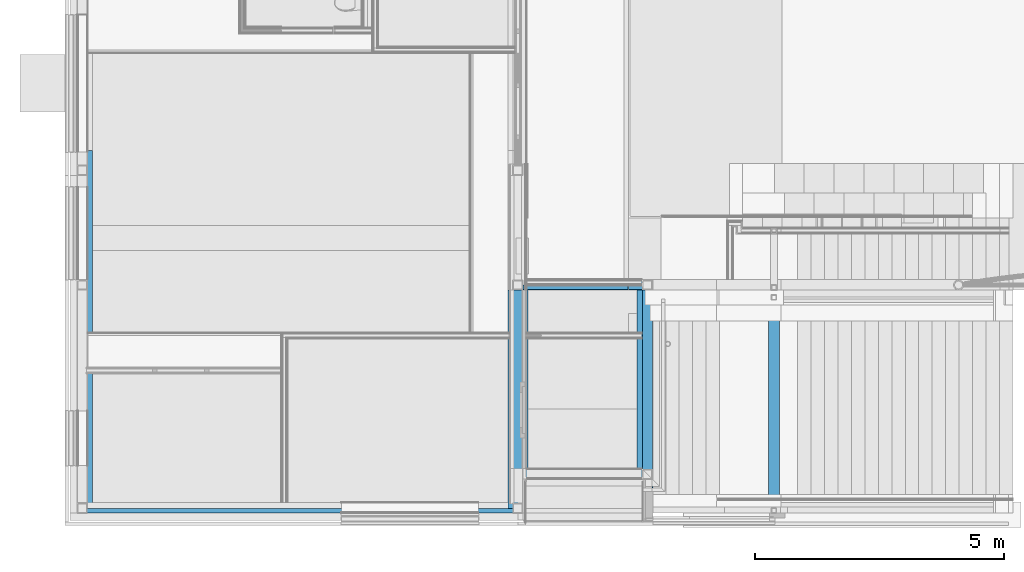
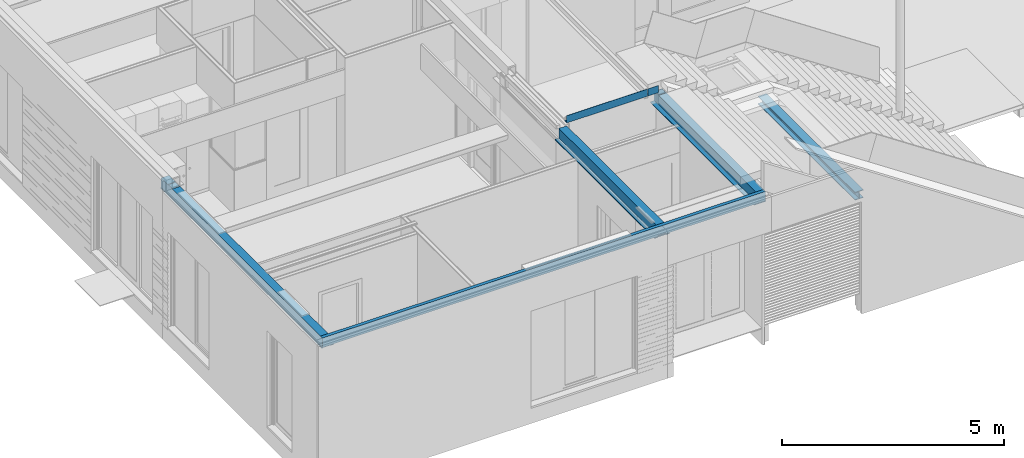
# One storey, part 8 of 165: 6 beams.
"""IFC2X3 building model written with IfcOpenShell, lengths in millimetres."""

from ifc_helpers import new_model, entity, si_unit, converted_unit, derived_unit, money_unit, direction, frame, origin_with_axes, place, context, subcontext, project, spatial, faceted_brep, material, type_object, element, save


model = new_model("IFC2X3")

# Units and contexts
model_context = context("Model", 3, precision=0.01, world=origin_with_axes(), true_north=direction((0.0, 1.0)))
body_context = subcontext(model_context, "Body", "Model", "MODEL_VIEW")
ifc_project = project(units=[si_unit("LENGTHUNIT", "METRE", prefix="MILLI"), si_unit("AREAUNIT", "SQUARE_METRE"), si_unit("VOLUMEUNIT", "CUBIC_METRE"), converted_unit("PLANEANGLEUNIT", "DEGREE", entity("IfcPlaneAngleMeasure", 0.0174532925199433), si_unit("PLANEANGLEUNIT", "RADIAN"), dimensions=[0, 0, 0, 0, 0, 0, 0]), money_unit("EUR"), converted_unit("TIMEUNIT", "Year", entity("IfcTimeMeasure", 31556926.0), si_unit("TIMEUNIT", "SECOND"), dimensions=[0, 0, 1, 0, 0, 0, 0]), si_unit("MASSUNIT", "GRAM", prefix="KILO"), si_unit("THERMODYNAMICTEMPERATUREUNIT", "DEGREE_CELSIUS"), si_unit("LUMINOUSINTENSITYUNIT", "LUMEN"), si_unit("ENERGYUNIT", "JOULE", prefix="MEGA"), derived_unit("THERMALCONDUCTANCEUNIT", [(si_unit("POWERUNIT", "WATT"), 1), (si_unit("LENGTHUNIT", "METRE"), -1), (si_unit("THERMODYNAMICTEMPERATUREUNIT", "KELVIN"), -1)]), derived_unit("SPECIFICHEATCAPACITYUNIT", [(si_unit("ENERGYUNIT", "JOULE"), 1), (si_unit("MASSUNIT", "GRAM", prefix="KILO"), -1), (si_unit("THERMODYNAMICTEMPERATUREUNIT", "KELVIN"), -1)]), derived_unit("MASSDENSITYUNIT", [(si_unit("MASSUNIT", "GRAM", prefix="KILO"), 1), (si_unit("VOLUMEUNIT", "CUBIC_METRE"), -1)])], contexts=[model_context])

# Site, building, storey
site_placement = place(None, origin_with_axes())
site = spatial("IfcSite", under=ifc_project, at=site_placement, Name="Site", CompositionType="ELEMENT")
building_placement = place(site_placement, origin_with_axes())
building = spatial("IfcBuilding", under=site, at=building_placement, Name="Naam gebouw", CompositionType="ELEMENT")
storey_placement = place(building_placement, origin_with_axes())
storey = spatial("IfcBuildingStorey", under=building, at=storey_placement, Name="Begane grond", CompositionType="ELEMENT", Elevation=0.0)

# Beams
ifc_material = material(Name="Metaal - Staal C")
beam_type_1 = type_object("IfcBeamType", Name="UNP260 90 x 260", PredefinedType="BEAM")
beam_1_placement = place(storey_placement, frame((0.0, -1.353469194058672e-10, 3440.0), z_axis=(0.0, 0.0, 1.0), x_axis=(0.0, -1.0, 0.0)))
element("IfcBeam", 1, at=beam_1_placement, inside=storey, type_object=beam_type_1, material=ifc_material, Name="h METAAL_Regenwaterafvoer-x", ObjectType="BEAM", context=body_context, shape_type="Brep", body=[
    faceted_brep([(-90.00000000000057, 8760.000000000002, -116.0000000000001), (-10.00000000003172, 8760.0, -116.0000000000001), (-10.0000000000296, 8940.0, -116.0000000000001), (-90.00000000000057, 8940.000000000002, -116.0000000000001), (-10.00000000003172, 8760.0, -129.9999999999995), (-90.00000000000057, 8760.000000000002, -129.9999999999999), (-10.0000000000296, 8940.0, -129.9999999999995), (-90.00000000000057, 8940.000000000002, -129.9999999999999)], [[[0, 1, 2, 3]], [[4, 1, 0, 5]], [[6, 2, 1, 4]], [[6, 7, 3, 2]], [[7, 5, 0, 3]], [[6, 4, 5, 7]]]),
    faceted_brep([(-90.00000000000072, 11549.99980462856, -129.9999999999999), (-90.00000000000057, 8950.000000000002, -129.9999999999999), (-90.00000000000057, 8950.000000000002, -116.0000000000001), (-90.00000000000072, 11549.99980462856, -116.0000000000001), (0.0, 11549.99980462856, -129.9999999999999), (0.0, 8950.0, -130.0000000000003), (-10.00000000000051, 8950.0, -99.9999977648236), (-10.00000000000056, 8950.0, -116.0000000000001), (0.0, 8950.0, -99.9999977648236), (-10.00000000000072, 11549.99980462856, -116.0000000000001), (-90.0000000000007, 11549.99980462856, 116.0000000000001), (-90.0000000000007, 11549.99980462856, 129.9999999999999), (0.0, 11549.99980462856, 129.9999999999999), (-10.00000000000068, 11549.99980462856, 116.0000000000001), (0.0, 8750.0, -99.9999977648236), (0.0, 0.0, 129.9999999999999), (0.0, 0.0, -129.9999999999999), (0.0, 8750.0, -129.9999999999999), (-10.00000000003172, 8760.0, -99.9999977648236), (-10.00000000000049, 8750.0, -99.9999977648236), (-10.00000000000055, 8750.0, -116.0000000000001), (-10.00000000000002, 0.0, -116.0000000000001), (-9.999999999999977, 0.0, 116.0000000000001), (-10.0000000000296, 8940.0, -99.9999977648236), (-89.99999999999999, 0.0, 116.0000000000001), (-89.99999999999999, 0.0, 129.9999999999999), (-90.00000000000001, 0.0, -129.9999999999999), (-90.00000000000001, 0.0, -116.0000000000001), (-90.00000000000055, 8750.000000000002, -129.9999999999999), (-90.00000000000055, 8750.000000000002, -116.0000000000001)], [[[0, 1, 2, 3]], [[4, 5, 1, 0]], [[6, 7, 2, 1, 5, 8]], [[3, 2, 7, 9]], [[10, 11, 12, 4, 0, 3, 9, 13]], [[14, 8, 5, 4, 12, 15, 16, 17]], [[18, 19, 20, 21, 22, 13, 9, 7, 6, 23]], [[18, 23, 6, 8, 14, 19]], [[24, 25, 11, 10]], [[25, 15, 12, 11]], [[22, 24, 10, 13]], [[26, 16, 15, 25, 24, 22, 21, 27]], [[26, 28, 17, 16]], [[17, 28, 29, 20, 19, 14]], [[21, 20, 29, 27]], [[27, 29, 28, 26]]]),
])
beam_type_2 = type_object("IfcBeamType", Name="28 THQ 03 400 x 290", PredefinedType="BEAM")
beam_2_placement = place(storey_placement, frame((8850.000000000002, 4479.999999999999, 3570.0), z_axis=(0.0, 0.0, 1.0), x_axis=(-1.0, 0.0, 0.0)))
element("IfcBeam", 2, at=beam_2_placement, inside=storey, type_object=beam_type_2, material=ifc_material, Name="h METAAL_Regenwaterafvoer-x", ObjectType="BEAM", context=body_context, shape_type="Brep", body=[
    faceted_brep([(-89.99999999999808, 4469.999999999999, -289.9999977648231), (90.00000000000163, 4469.999999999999, -289.9999977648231), (90.00000000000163, 4289.999999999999, -289.9999977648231), (-89.99999999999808, 4289.999999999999, -289.9999977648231), (-89.99999999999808, 4469.999999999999, -264.9999977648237), (90.00000000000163, 4469.999999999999, -264.9999977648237), (90.00000000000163, 4289.999999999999, -264.9999977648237), (-89.99999999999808, 4289.999999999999, -264.9999977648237)], [[[0, 1, 2, 3]], [[0, 4, 5, 1]], [[1, 5, 6, 2]], [[2, 6, 7, 3]], [[3, 7, 4, 0]], [[6, 5, 4, 7]]]),
    faceted_brep([(-99.99999999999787, 4279.999999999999, -289.9999977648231), (100.0000000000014, 4279.999999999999, -289.9999977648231), (100.0000000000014, 4479.999999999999, -289.9999977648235), (199.9999999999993, 4480.000000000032, -289.9999977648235), (199.9999999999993, 0.0, -289.9999977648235), (-199.9999999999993, 0.0, -289.9999977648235), (-200.0000000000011, 4480.000000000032, -289.9999977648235), (-99.99999999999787, 4479.999999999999, -289.999997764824), (100.0000000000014, 4279.999999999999, -229.9999977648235), (-99.99999999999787, 4279.999999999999, -229.9999977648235), (-95.00000000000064, 4279.999999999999, -229.9999977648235), (-95.00000000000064, 4279.999999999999, -264.9999977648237), (94.99999999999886, 4279.999999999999, -264.9999977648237), (95.00000000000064, 4279.999999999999, -229.9999977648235), (100.0000000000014, 4479.999999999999, -259.9999999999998), (100.0000000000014, 4470.000000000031, -229.9999977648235), (100.0000000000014, 4470.000000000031, -246.0), (100.0000000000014, 4390.000000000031, -246.0), (100.0000000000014, 4390.000000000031, -259.9999999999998), (102.9999999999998, 4480.000000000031, -259.9999999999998), (102.9999999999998, 4480.000000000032, -264.9999977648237), (199.9999999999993, 4480.000000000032, -264.9999977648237), (199.9999999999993, 0.0, -264.9999977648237), (102.9999999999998, 0.0, -264.9999977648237), (102.9999999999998, 0.0, 0.0), (-102.9999999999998, 0.0, 0.0), (-102.9999999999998, 0.0, -264.9999977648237), (-199.9999999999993, 0.0, -264.9999977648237), (-95.00000000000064, 0.0, -40.00000000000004), (95.00000000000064, 0.0, -40.00000000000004), (95.00000000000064, 0.0, -264.9999977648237), (-95.00000000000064, 0.0, -264.9999977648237), (-200.0000000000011, 4480.000000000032, -264.9999977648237), (-102.9999999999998, 4480.000000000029, -259.9999999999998), (-99.99999999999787, 4479.999999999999, -260.0000000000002), (-102.9999999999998, 4480.000000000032, -264.9999977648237), (-99.99999999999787, 4390.000000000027, -259.9999999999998), (-99.99999999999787, 4390.000000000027, -246.0), (-99.99999999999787, 4470.000000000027, -246.0), (-99.99999999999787, 4470.000000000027, -229.9999977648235), (-95.00000000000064, 4470.000000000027, -229.9999977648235), (-95.00000000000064, 4470.000000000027, -40.00000000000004), (95.00000000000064, 4470.000000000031, -229.9999977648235), (94.99999999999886, 4470.000000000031, -40.00000000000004), (-102.9999999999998, 4470.000000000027, -246.0), (-102.9999999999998, 4470.000000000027, -13.99999999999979), (102.9999999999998, 4470.000000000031, -13.99999999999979), (102.9999999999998, 4470.000000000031, -246.0), (102.9999999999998, 4390.000000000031, -246.0), (102.9999999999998, 4390.000000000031, -259.9999999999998), (102.9999999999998, 4390.000000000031, -13.99999999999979), (102.999999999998, 4390.000000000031, 0.0), (-102.9999999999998, 4390.000000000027, 0.0), (-102.9999999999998, 4390.000000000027, -246.0), (-102.9999999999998, 4390.000000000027, -259.9999999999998), (-102.9999999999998, 4390.000000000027, -13.99999999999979)], [[[0, 1, 2, 3, 4, 5, 6, 7]], [[8, 1, 0, 9, 10, 11, 12, 13]], [[14, 2, 1, 8, 15, 16, 17, 18]], [[3, 2, 14, 19, 20, 21]], [[3, 21, 22, 4]], [[23, 24, 25, 26, 27, 5, 4, 22], [28, 29, 30, 31]], [[32, 6, 5, 27]], [[33, 34, 7, 6, 32, 35]], [[9, 0, 7, 34, 36, 37, 38, 39]], [[9, 39, 40, 10]], [[11, 10, 40, 41, 28, 31]], [[30, 12, 11, 31]], [[42, 13, 12, 30, 29, 43]], [[8, 13, 42, 15]], [[40, 39, 38, 44, 45, 46, 47, 16, 15, 42, 43, 41]], [[48, 17, 16, 47]], [[49, 18, 17, 48]], [[19, 14, 18, 49]], [[47, 46, 50, 51, 24, 23, 20, 19, 49, 48]], [[21, 20, 23, 22]], [[25, 24, 51, 52]], [[44, 53, 54, 33, 35, 26, 25, 52, 55, 45]], [[35, 32, 27, 26]], [[29, 28, 41, 43]], [[54, 36, 34, 33]], [[53, 37, 36, 54]], [[44, 38, 37, 53]], [[50, 46, 45, 55]], [[51, 50, 55, 52]]]),
])
beam_type_3 = type_object("IfcBeamType", Name="28 THQ enkele flens 02 320 x 280", PredefinedType="BEAM")
beam_3_placement = place(storey_placement, frame((99.99999999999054, 7279.999999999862, 3570.0), z_axis=(0.0, 0.0, 1.0), x_axis=(-1.0, 0.0, 0.0)))
element("IfcBeam", 3, at=beam_3_placement, inside=storey, type_object=beam_type_3, material=ifc_material, Name="h METAAL_Regenwaterafvoer-x", ObjectType="BEAM", context=body_context, shape_type="Brep", body=[
    faceted_brep([(-90.00000000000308, 489.9999999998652, -280.0000000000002), (89.99999999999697, 489.9999999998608, -280.0000000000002), (89.9999999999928, 309.9999999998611, -280.0000000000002), (-90.00000000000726, 309.9999999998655, -280.0000000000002), (-90.00000000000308, 489.9999999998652, -265.0000000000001), (89.99999999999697, 489.9999999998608, -265.0000000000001), (89.9999999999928, 309.9999999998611, -265.0000000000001), (-90.00000000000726, 309.9999999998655, -265.0000000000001)], [[[0, 1, 2, 3]], [[0, 4, 5, 1]], [[1, 5, 6, 2]], [[2, 6, 7, 3]], [[3, 7, 4, 0]], [[6, 5, 4, 7]]]),
    faceted_brep([(-90.00000000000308, 489.9999999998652, -30.00000000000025), (89.99999999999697, 489.9999999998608, -30.00000000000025), (89.9999999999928, 309.9999999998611, -30.00000000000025), (-90.00000000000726, 309.9999999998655, -30.00000000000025), (-90.00000000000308, 489.9999999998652, 0.0), (89.99999999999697, 489.9999999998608, 0.0), (89.9999999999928, 309.9999999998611, 0.0), (-90.00000000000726, 309.9999999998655, 0.0)], [[[0, 1, 2, 3]], [[0, 4, 5, 1]], [[1, 5, 6, 2]], [[2, 6, 7, 3]], [[3, 7, 4, 0]], [[6, 5, 4, 7]]]),
    faceted_brep([(-89.99999999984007, 7269.999999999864, -280.0000000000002), (90.00000000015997, 7269.999999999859, -280.0000000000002), (90.0000000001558, 7089.99999999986, -280.0000000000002), (-89.99999999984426, 7089.999999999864, -280.0000000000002), (-89.99999999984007, 7269.999999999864, -265.0000000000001), (90.00000000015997, 7269.999999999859, -265.0000000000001), (90.0000000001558, 7089.99999999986, -265.0000000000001), (-89.99999999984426, 7089.999999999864, -265.0000000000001)], [[[0, 1, 2, 3]], [[0, 4, 5, 1]], [[1, 5, 6, 2]], [[2, 6, 7, 3]], [[3, 7, 4, 0]], [[6, 5, 4, 7]]]),
    faceted_brep([(-89.99999999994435, 2789.999999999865, -280.0000000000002), (90.00000000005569, 2789.99999999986, -280.0000000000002), (90.00000000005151, 2609.999999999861, -280.0000000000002), (-89.99999999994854, 2609.999999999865, -280.0000000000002), (-89.99999999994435, 2789.999999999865, -265.0000000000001), (90.00000000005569, 2789.99999999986, -265.0000000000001), (90.00000000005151, 2609.999999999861, -265.0000000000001), (-89.99999999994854, 2609.999999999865, -265.0000000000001)], [[[0, 1, 2, 3]], [[0, 4, 5, 1]], [[1, 5, 6, 2]], [[2, 6, 7, 3]], [[3, 7, 4, 0]], [[6, 5, 4, 7]]]),
    faceted_brep([(-95.00000000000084, 2599.999999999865, -259.9999999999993), (-95.00000000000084, 2799.999999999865, -259.9999999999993), (-94.99999999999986, 2799.999999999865, -265.0000000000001), (-94.99999999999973, 7079.999999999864, -265.0000000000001), (-95.00000000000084, 7079.999999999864, -259.9999999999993), (-94.99999999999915, 7189.999999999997, -259.9999999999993), (-94.99999999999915, 7189.999999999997, -246.0), (-95.00000000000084, 7269.999999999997, -246.0), (-94.99999999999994, 7269.999999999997, -29.9999999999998), (-94.99999999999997, 499.9999999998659, -29.9999999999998), (-94.99999999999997, 499.999999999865, -265.0000000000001), (-94.99999999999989, 2599.999999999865, -265.0000000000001), (-99.99999999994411, 2799.999999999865, -259.9999999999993), (-99.99999999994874, 2599.999999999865, -259.9999999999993), (-99.99999999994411, 2799.999999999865, -280.0000000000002), (100.0000000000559, 2799.99999999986, -280.0000000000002), (100.0000000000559, 2799.99999999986, -259.9999999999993), (95.00000000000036, 2799.99999999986, -259.9999999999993), (95.00000000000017, 2799.99999999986, -265.0000000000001), (94.99999999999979, 7079.99999999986, -265.0000000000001), (100.0000000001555, 7079.99999999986, -259.9999999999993), (100.0000000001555, 7079.99999999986, -280.0000000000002), (-99.99999999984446, 7079.999999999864, -280.0000000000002), (-99.99999999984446, 7079.999999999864, -259.9999999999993), (95.00000000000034, 7079.99999999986, -259.9999999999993), (-99.9999999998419, 7189.999999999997, -259.9999999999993), (-100.9999999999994, 7189.999999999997, -259.9999999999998), (-100.9999999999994, 7189.999999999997, -246.0), (-101.0000000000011, 7269.999999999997, -246.0), (-101.0000000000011, 7269.999999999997, -13.99999999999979), (100.0000000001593, 7269.999999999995, -13.99999999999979), (100.0000000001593, 7269.999999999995, -246.0), (95.00000000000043, 7269.999999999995, -246.0), (94.99999999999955, 7269.999999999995, -30.00000000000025), (95.00000000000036, 499.9999999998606, -30.00000000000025), (99.99999999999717, 499.9999999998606, -280.0000000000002), (99.99999999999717, 499.9999999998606, 0.0), (-100.0000000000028, 499.999999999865, 0.0), (-100.0000000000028, 499.999999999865, -280.0000000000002), (95.00000000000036, 499.9999999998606, -265.0000000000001), (95.00000000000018, 2599.999999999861, -265.0000000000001), (100.0000000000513, 2599.999999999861, -259.9999999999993), (100.0000000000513, 2599.999999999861, -280.0000000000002), (-99.99999999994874, 2599.999999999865, -280.0000000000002), (95.00000000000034, 2599.999999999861, -259.9999999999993), (100.0000000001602, 7279.999999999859, -280.0000000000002), (115.9999999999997, 7279.999999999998, -280.0000000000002), (116.0000000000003, 0.0, -280.0000000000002), (-204.000004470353, 0.0, -279.9999999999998), (-204.0000044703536, 7279.999999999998, -279.9999999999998), (-99.99999999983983, 7279.999999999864, -280.0000000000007), (99.99999999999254, 299.9999999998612, -280.0000000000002), (-100.0000000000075, 299.9999999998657, -280.0000000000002), (95.00000000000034, 7189.999999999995, -246.0), (95.00000000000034, 7189.999999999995, -259.9999999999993), (100.0000000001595, 7279.999999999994, 0.0), (100.0000000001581, 7189.999999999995, -259.9999999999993), (100.0000000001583, 7189.999999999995, -246.0), (100.0000000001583, 7189.999999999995, -13.99999999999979), (100.0000000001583, 7189.999999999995, 0.0), (-99.99999999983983, 7279.999999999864, -259.9999999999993), (-101.0, 7279.999999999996, -259.9999999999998), (-101.0, 7279.999999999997, -265.0000000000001), (-101.0000000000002, 0.0, -265.0000000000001), (-101.0000000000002, 0.0, 0.0), (-100.9999999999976, 7189.999999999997, 0.0), (-100.9999999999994, 7189.999999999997, -13.99999999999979), (99.99999999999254, 299.9999999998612, 0.0), (100.9999999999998, 0.0, 0.0), (101.0, 7279.999999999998, 0.0), (-100.0000000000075, 299.9999999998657, 0.0), (101.0, 7279.999999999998, -265.0000000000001), (115.9999999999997, 7279.999999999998, -265.0000000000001), (116.0000000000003, 0.0, -265.0000000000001), (100.9999999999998, 0.0, -265.0000000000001), (-204.000004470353, 0.0, -265.0000000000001), (95.00000000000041, 0.0, -265.0000000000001), (-94.99999999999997, 0.0, -265.0000000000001), (-94.99999999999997, 0.0, -29.9999999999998), (95.00000000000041, 0.0, -30.00000000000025), (-204.0000044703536, 7279.999999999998, -265.0000000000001), (95.00000000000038, 299.9999999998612, -265.0000000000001), (95.00000000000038, 299.9999999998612, -30.00000000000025), (-94.99999999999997, 299.9999999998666, -29.9999999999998), (-94.99999999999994, 299.9999999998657, -265.0000000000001)], [[[0, 1, 2, 3, 4, 5, 6, 7, 8, 9, 10, 11]], [[12, 1, 0, 13]], [[12, 14, 15, 16, 17, 18, 2, 1]], [[3, 2, 18, 19]], [[20, 21, 22, 23, 4, 3, 19, 24]], [[23, 25, 5, 4]], [[6, 5, 25, 26, 27]], [[7, 6, 27, 28]], [[8, 7, 28, 29, 30, 31, 32, 33]], [[33, 34, 9, 8]], [[35, 36, 37, 38], [39, 10, 9, 34]], [[39, 40, 11, 10]], [[41, 42, 43, 13, 0, 11, 40, 44]], [[13, 43, 14, 12]], [[22, 21, 45, 46, 47, 48, 49, 50], [51, 35, 38, 52], [42, 15, 14, 43]], [[16, 15, 42, 41]], [[41, 44, 17, 16]], [[17, 44, 40, 39, 34, 33, 32, 53, 54, 24, 19, 18]], [[55, 45, 21, 20, 56, 57, 31, 30, 58, 59]], [[23, 22, 50, 60, 25]], [[20, 24, 54, 56]], [[26, 25, 60, 61]], [[28, 27, 26, 61, 62, 63, 64, 65, 66, 29]], [[58, 30, 29, 66]], [[31, 57, 53, 32]], [[51, 67, 36, 35]], [[68, 69, 55, 59, 65, 64], [37, 36, 67, 70]], [[38, 37, 70, 52]], [[46, 45, 55, 69, 71, 72]], [[46, 72, 73, 47]], [[47, 73, 74, 68, 64, 63, 75, 48], [76, 77, 78, 79]], [[80, 49, 48, 75]], [[61, 60, 50, 49, 80, 62]], [[52, 70, 67, 51], [81, 82, 83, 84]], [[57, 56, 54, 53]], [[59, 58, 66, 65]], [[62, 80, 75, 63]], [[71, 69, 68, 74]], [[72, 71, 74, 73]], [[76, 81, 84, 77]], [[77, 84, 83, 78]], [[78, 83, 82, 79]], [[79, 82, 81, 76]]]),
])
beam_4_placement = place(storey_placement, frame((11450.00000000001, 4679.999999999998, 3570.000000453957), z_axis=(0.0, 0.0, 1.0), x_axis=(-1.0, 0.0, 0.0)))
element("IfcBeam", 4, at=beam_4_placement, inside=storey, type_object=beam_type_3, material=ifc_material, Name="h METAAL_Regenwaterafvoer-x", ObjectType="BEAM", context=body_context, shape_type="Brep", body=[
    faceted_brep([(-89.99999999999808, 189.9999999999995, -279.9999999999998), (90.00000000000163, 189.9999999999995, -279.9999999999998), (90.00000000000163, 9.999999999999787, -279.9999999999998), (-89.99999999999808, 9.999999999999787, -279.9999999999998), (-89.99999999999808, 189.9999999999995, -265.0000000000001), (90.00000000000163, 189.9999999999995, -265.0000000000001), (90.00000000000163, 9.999999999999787, -265.0000000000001), (-89.99999999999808, 9.999999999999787, -265.0000000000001)], [[[0, 1, 2, 3]], [[0, 4, 5, 1]], [[1, 5, 6, 2]], [[2, 6, 7, 3]], [[3, 7, 4, 0]], [[6, 5, 4, 7]]]),
    faceted_brep([(-89.99999999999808, 189.9999999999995, -30.00000000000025), (90.00000000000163, 189.9999999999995, -30.00000000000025), (90.00000000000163, 9.999999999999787, -30.00000000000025), (-89.99999999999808, 9.999999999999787, -30.00000000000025), (-89.99999999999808, 189.9999999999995, -4.53956872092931e-07), (90.00000000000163, 189.9999999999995, -4.53956872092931e-07), (90.00000000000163, 9.999999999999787, -4.53956872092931e-07), (-89.99999999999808, 9.999999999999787, -4.53956872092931e-07)], [[[0, 1, 2, 3]], [[0, 4, 5, 1]], [[1, 5, 6, 2]], [[2, 6, 7, 3]], [[3, 7, 4, 0]], [[6, 5, 4, 7]]]),
    faceted_brep([(-89.99999999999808, 3989.999999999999, -279.9999999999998), (90.00000000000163, 3989.999999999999, -279.9999999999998), (90.00000000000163, 3809.999999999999, -279.9999999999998), (-89.99999999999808, 3809.999999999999, -279.9999999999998), (-89.99999999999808, 3989.999999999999, -265.0000000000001), (90.00000000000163, 3989.999999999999, -265.0000000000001), (90.00000000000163, 3809.999999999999, -265.0000000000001), (-89.99999999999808, 3809.999999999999, -265.0000000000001)], [[[0, 1, 2, 3]], [[0, 4, 5, 1]], [[1, 5, 6, 2]], [[2, 6, 7, 3]], [[3, 7, 4, 0]], [[6, 5, 4, 7]]]),
    faceted_brep([(-95.00000000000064, 3799.999999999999, -260.0000004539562), (-95.00000000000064, 3999.999999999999, -260.0000004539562), (-95.00000000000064, 3999.999999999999, -265.0000000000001), (-95.00000000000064, 4680.000000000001, -265.0000000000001), (-95.00000000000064, 4679.999999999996, -260.0000004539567), (-95.00000000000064, 4589.999999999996, -260.0000004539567), (-95.00000000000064, 4589.999999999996, -246.0000004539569), (-95.00000000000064, 4669.999999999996, -246.0000004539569), (-95.00000000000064, 4669.999999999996, -30.00000000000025), (-95.00000000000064, 199.9999999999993, -30.00000000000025), (-95.00000000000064, 199.9999999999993, -265.0000000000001), (-95.00000000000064, 3799.999999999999, -265.0000000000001), (-99.99999999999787, 3999.999999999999, -260.0000004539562), (-99.99999999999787, 3799.999999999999, -260.0000004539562), (-99.99999999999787, 3999.999999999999, -279.9999999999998), (100.0000000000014, 3999.999999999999, -279.9999999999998), (100.0000000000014, 3999.999999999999, -260.0000004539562), (95.00000000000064, 3999.999999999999, -260.0000004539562), (94.99999999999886, 3999.999999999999, -265.0000000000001), (94.99999999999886, 4680.000000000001, -265.0000000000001), (94.99999999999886, 4679.999999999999, -260.0000004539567), (100.9999999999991, 4679.999999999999, -260.0000004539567), (100.9999999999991, 4680.000000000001, -265.0000000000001), (204.0000044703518, 4680.000000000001, -265.0000000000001), (204.0000044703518, 4680.000000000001, -279.9999999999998), (-115.9999999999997, 4680.000000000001, -279.9999999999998), (-116.0000000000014, 4680.000000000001, -265.0000000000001), (-101.0000000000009, 4680.000000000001, -265.0000000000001), (-101.0000000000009, 4680.000000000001, 0.0), (-99.99980462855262, 4679.999999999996, -4.53956872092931e-07), (-99.99980462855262, 4679.999999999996, -260.0000004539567), (-99.99980462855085, 4589.999999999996, -260.0000004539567), (-99.99980462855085, 4589.999999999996, -246.0000004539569), (-99.99980462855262, 4669.999999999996, -246.0000004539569), (101.0000000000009, 4669.999999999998, -246.0000004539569), (95.00000000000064, 4669.999999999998, -246.0000004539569), (94.99999999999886, 4669.999999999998, -29.9999999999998), (-99.99980462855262, 4669.999999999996, -14.00000045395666), (101.0000000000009, 4669.999999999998, -14.00000045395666), (95.00000000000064, 199.9999999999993, -29.9999999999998), (100.0000000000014, 199.9999999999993, -279.9999999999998), (100.0000000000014, 199.9999999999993, -4.53956872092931e-07), (-99.99999999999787, 199.9999999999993, -4.53956872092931e-07), (-99.99999999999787, 199.9999999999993, -279.9999999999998), (95.00000000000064, 199.9999999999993, -265.0000000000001), (94.99999999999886, 3799.999999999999, -265.0000000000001), (100.0000000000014, 3799.999999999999, -260.0000004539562), (100.0000000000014, 3799.999999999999, -279.9999999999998), (-99.99999999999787, 3799.999999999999, -279.9999999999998), (95.00000000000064, 3799.999999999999, -260.0000004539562), (-99.99999999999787, 0.0, -280.0000000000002), (-115.9999999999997, 0.0, -279.9999999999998), (204.0000044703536, 0.0, -279.9999999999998), (100.0000000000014, 0.0, -279.9999999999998), (95.00000000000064, 4589.999999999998, -246.0000004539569), (95.00000000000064, 4589.999999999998, -260.0000004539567), (101.0000000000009, 4589.999999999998, -260.0000004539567), (101.0000000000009, 4589.999999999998, -14.00000045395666), (100.9999999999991, 4589.999999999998, -4.53956872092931e-07), (101.0000000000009, 0.0, 0.0), (101.0000000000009, 0.0, -265.0000000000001), (101.0000000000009, 4589.999999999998, -246.0000004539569), (204.0000044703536, 0.0, -265.0000000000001), (-115.9999999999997, 0.0, -265.0000000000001), (-101.0000000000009, 0.0, -265.0000000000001), (-101.0000000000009, 0.0, 0.0), (100.0000000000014, 0.0, 0.0), (-99.99980462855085, 4589.999999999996, -4.53956872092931e-07), (-99.99999999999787, 0.0, 0.0), (-99.99980462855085, 4589.999999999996, -14.00000045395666)], [[[0, 1, 2, 3, 4, 5, 6, 7, 8, 9, 10, 11]], [[12, 1, 0, 13]], [[12, 14, 15, 16, 17, 18, 2, 1]], [[3, 2, 18, 19]], [[3, 19, 20, 21, 22, 23, 24, 25, 26, 27, 28, 29, 30, 4]], [[31, 5, 4, 30]], [[31, 32, 6, 5]], [[32, 33, 7, 6]], [[34, 35, 36, 8, 7, 33, 37, 38]], [[36, 39, 9, 8]], [[40, 41, 42, 43], [44, 10, 9, 39]], [[44, 45, 11, 10]], [[46, 47, 48, 13, 0, 11, 45, 49]], [[13, 48, 14, 12]], [[40, 43, 50, 51, 25, 24, 52, 53], [47, 15, 14, 48]], [[16, 15, 47, 46]], [[46, 49, 17, 16]], [[17, 49, 45, 44, 39, 36, 35, 54, 55, 20, 19, 18]], [[56, 21, 20, 55]], [[34, 38, 57, 58, 59, 60, 22, 21, 56, 61]], [[23, 22, 60, 62]], [[24, 23, 62, 52]], [[26, 25, 51, 63]], [[27, 26, 63, 64]], [[28, 27, 64, 65]], [[42, 41, 66, 59, 58, 67, 29, 28, 65, 68]], [[31, 30, 29, 67, 69, 37, 33, 32]], [[34, 61, 54, 35]], [[37, 69, 57, 38]], [[40, 53, 66, 41]], [[43, 42, 68, 50]], [[51, 50, 68, 65, 64, 63]], [[59, 66, 53, 52, 62, 60]], [[61, 56, 55, 54]], [[57, 69, 67, 58]]]),
])
beam_type_4 = type_object("IfcBeamType", Name="L200X100X10 100 x 200", PredefinedType="BEAM")
beam_5_placement = place(storey_placement, frame((11350.00000000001, 4579.999999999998, 3745.000000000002), z_axis=(0.0, 0.0, 1.0), x_axis=(0.0, 1.0, 0.0)))
element("IfcBeam", 5, at=beam_5_placement, inside=storey, type_object=beam_type_4, material=ifc_material, Name="h METAAL_Regenwaterafvoer-x", ObjectType="BEAM", context=body_context, shape_type="Brep", body=[
    faceted_brep([(-89.99999999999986, 2397.000000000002, -89.99999999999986), (-89.99999999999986, 284.9544074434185, -89.99999999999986), (0.0, 284.9544074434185, -89.99999999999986), (0.0, 2397.000000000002, -89.99999999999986), (-89.99999999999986, 2397.000000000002, 100.0000000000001), (-89.99999999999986, 284.9544074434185, 100.0000000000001), (-99.99999999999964, 284.9544074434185, -100.0000000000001), (0.0, 284.9544074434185, -100.0000000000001), (-99.99999999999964, 284.9544074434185, 100.0000000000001), (0.0, 2397.000000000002, -100.0000000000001), (-99.99999999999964, 2397.000000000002, -100.0000000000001), (-99.99999999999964, 2397.000000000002, 100.0000000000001)], [[[0, 1, 2, 3]], [[4, 5, 1, 0]], [[6, 7, 2, 1, 5, 8]], [[3, 2, 7, 9]], [[3, 9, 10, 11, 4, 0]], [[11, 8, 5, 4]], [[9, 7, 6, 10]], [[10, 6, 8, 11]]]),
    faceted_brep([(0.0, 0.0, -100.0000000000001), (0.0, 274.9544074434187, -100.0000000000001), (0.0, 274.9544074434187, -89.99999999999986), (0.0, 0.0, -89.99999999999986), (-99.99999999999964, 0.0, -100.0000000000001), (-99.99999999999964, 274.9544074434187, -100.0000000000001), (-89.99999999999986, 274.9544074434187, 100.0000000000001), (-89.99999999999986, 274.9544074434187, -89.99999999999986), (-99.99999999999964, 274.9544074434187, 100.0000000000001), (-89.99999999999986, 0.0, -89.99999999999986), (-89.99999999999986, 0.0, 100.0000000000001), (-99.99999999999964, 0.0, 100.0000000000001)], [[[0, 1, 2, 3]], [[4, 5, 1, 0]], [[6, 7, 2, 1, 5, 8]], [[3, 2, 7, 9]], [[10, 11, 4, 0, 3, 9]], [[11, 8, 5, 4]], [[9, 7, 6, 10]], [[10, 6, 8, 11]]]),
])
beam_type_5 = type_object("IfcBeamType", Name="HEB220 220 x 220", PredefinedType="BEAM")
beam_6_placement = place(storey_placement, frame((13990.0, 4379.999999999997, 2615.0), z_axis=(0.0, 0.0, 1.0), x_axis=(-1.0, 0.0, 0.0)))
element("IfcBeam", 6, at=beam_6_placement, inside=storey, type_object=beam_type_5, material=ifc_material, Name="h METAAL_Regenwaterafvoer-x", ObjectType="BEAM", context=body_context, shape_type="Brep", body=[
    faceted_brep([(-109.9999999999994, 0.0, 109.9999999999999), (-110.0000000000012, 4380.000000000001, 109.9999999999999), (-110.0000000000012, 4380.000000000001, 93.99999999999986), (-109.9999999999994, 0.0, 93.99999999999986), (109.9999999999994, 0.0, 109.9999999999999), (109.9999999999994, 4380.000000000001, 109.9999999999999), (109.9999999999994, 4380.000000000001, 93.99999999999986), (4.749999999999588, 4380.000000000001, 93.99999999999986), (4.749999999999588, 4380.000000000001, -93.99999999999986), (109.9999999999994, 4380.000000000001, -93.99999999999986), (109.9999999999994, 4380.000000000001, -109.9999999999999), (-110.0000000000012, 4380.000000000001, -109.9999999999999), (-110.0000000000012, 4380.000000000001, -93.99999999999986), (-4.750000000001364, 4380.000000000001, -93.99999999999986), (-4.750000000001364, 4380.000000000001, 93.99999999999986), (-4.749999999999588, 0.0, 93.99999999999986), (-4.749999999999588, 0.0, -93.99999999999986), (-109.9999999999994, 0.0, -93.99999999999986), (-109.9999999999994, 0.0, -109.9999999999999), (109.9999999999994, 0.0, -109.9999999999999), (109.9999999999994, 0.0, -93.99999999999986), (4.749999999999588, 0.0, -93.99999999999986), (4.749999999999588, 0.0, 93.99999999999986), (109.9999999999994, 0.0, 93.99999999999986)], [[[0, 1, 2, 3]], [[4, 5, 1, 0]], [[2, 1, 5, 6, 7, 8, 9, 10, 11, 12, 13, 14]], [[3, 2, 14, 15]], [[4, 0, 3, 15, 16, 17, 18, 19, 20, 21, 22, 23]], [[23, 6, 5, 4]], [[22, 7, 6, 23]], [[21, 8, 7, 22]], [[20, 9, 8, 21]], [[19, 10, 9, 20]], [[18, 11, 10, 19]], [[17, 12, 11, 18]], [[16, 13, 12, 17]], [[15, 14, 13, 16]]]),
])

save(model, "model.ifc")
